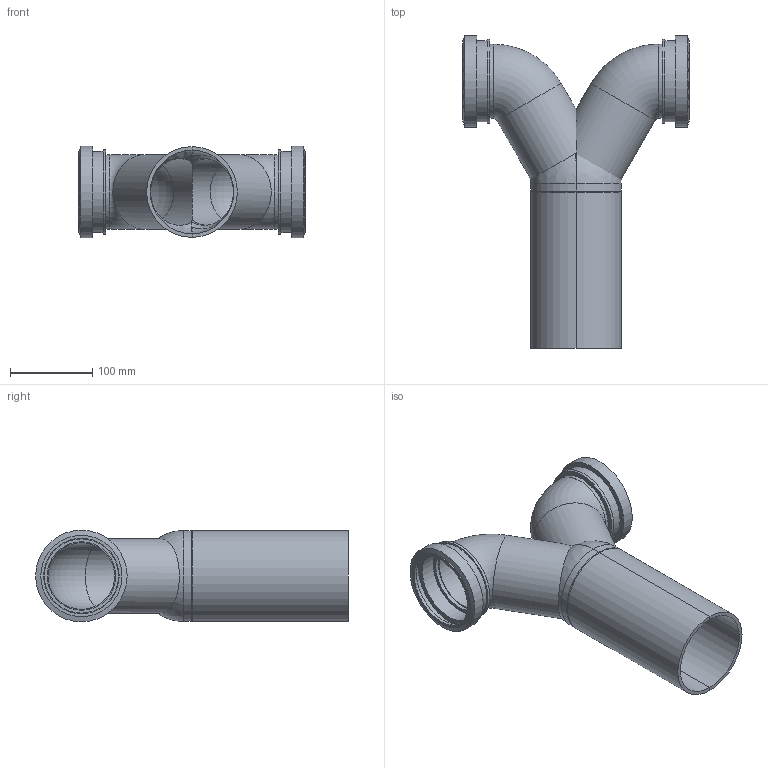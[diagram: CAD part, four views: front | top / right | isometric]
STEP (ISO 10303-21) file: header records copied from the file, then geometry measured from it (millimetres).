
FILE_DESCRIPTION(/* description */ (''),/* implementation_level */ '2;1');
FILE_NAME(/* name */ 'Z:\Geberit\Export\NewStep\367923.stp',/* time_stamp */ '2014-04-02T07:59:26+02:00',/* author */ ('ML'),/* organization */ (''),/* preprocessor_version */ 'ST-DEVELOPER v15.2',/* originating_system */ 'Autodesk Inventor 2014',/* authorisation */ '');
FILE_SCHEMA (('AUTOMOTIVE_DESIGN { 1 0 10303 214 3 1 1 }'));
Length unit declared in the file: millimetre
Products named in the file (1): 367923
Bounding box: 275 x 379.23 x 111 mm (x, y, z)
Volume: 743064 mm3; surface area: 359857.9 mm2
Topology: 2 solids, 2 shells, 71 faces, 164 edges, 105 vertices
Faces by surface type: cylinder 30, plane 22, cone 11, sphere 4, torus 4
Full cylindrical faces by diameter (mm): 81 x2, 83 x2, 90 x4, 91.45 x4, 98.45 x4, 102 x2, 104 x2, 111 x2
Entity records: 1965 total; most frequent: CARTESIAN_POINT 397, DIRECTION 338, ORIENTED_EDGE 240, AXIS2_PLACEMENT_3D 155, EDGE_CURVE 120, EDGE_LOOP 116, VERTEX_POINT 94, CIRCLE 77
